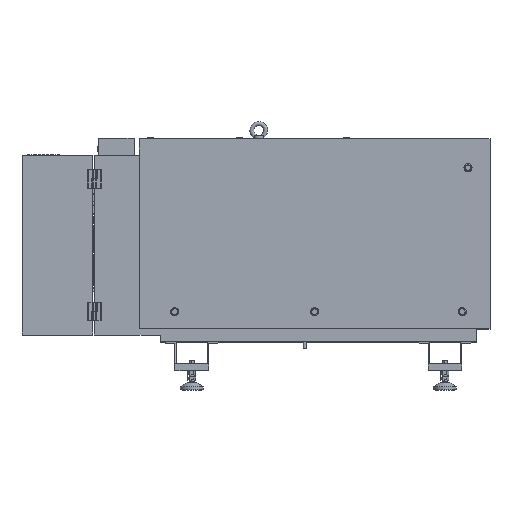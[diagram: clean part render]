
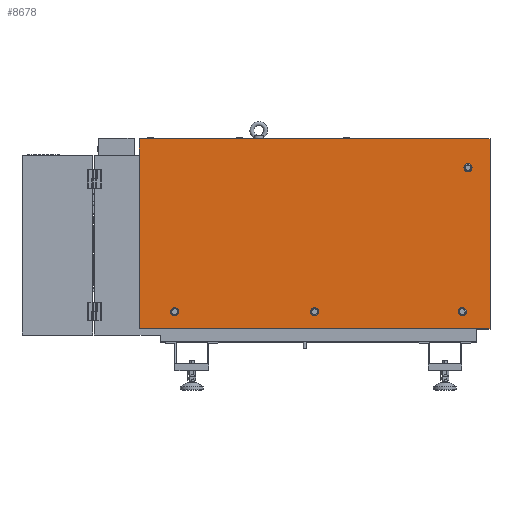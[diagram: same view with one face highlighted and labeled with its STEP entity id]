
A CAD part, top view. The second image highlights one B-rep face of the part: STEP entity #8678.
In plain terms, the highlighted planar face has unit normal (0, 0, 1).
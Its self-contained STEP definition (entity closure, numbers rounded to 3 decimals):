
#7074=DIRECTION('',(1.,0.,0.));
#7075=VECTOR('',#7074,1220.);
#7076=CARTESIAN_POINT('',(-73.5,705.5,277.5));
#7077=LINE('',#7076,#7075);
#7130=DIRECTION('',(0.,-1.,0.));
#7131=VECTOR('',#7130,660.5);
#7132=CARTESIAN_POINT('',(-73.5,705.5,277.5));
#7133=LINE('',#7132,#7131);
#7134=CARTESIAN_POINT('',(50.,105.,277.5));
#7135=DIRECTION('',(0.,0.,1.));
#7136=DIRECTION('',(-1.,0.,0.));
#7137=AXIS2_PLACEMENT_3D('',#7134,#7135,#7136);
#7139=CARTESIAN_POINT('',(50.,105.,277.5));
#7140=DIRECTION('',(0.,0.,1.));
#7141=DIRECTION('',(1.,0.,0.));
#7142=AXIS2_PLACEMENT_3D('',#7139,#7140,#7141);
#7144=CARTESIAN_POINT('',(536.5,105.,277.5));
#7145=DIRECTION('',(0.,0.,1.));
#7146=DIRECTION('',(-1.,0.,0.));
#7147=AXIS2_PLACEMENT_3D('',#7144,#7145,#7146);
#7149=CARTESIAN_POINT('',(536.5,105.,277.5));
#7150=DIRECTION('',(0.,0.,1.));
#7151=DIRECTION('',(1.,0.,0.));
#7152=AXIS2_PLACEMENT_3D('',#7149,#7150,#7151);
#7154=CARTESIAN_POINT('',(1050.,105.,277.5));
#7155=DIRECTION('',(0.,0.,1.));
#7156=DIRECTION('',(-1.,0.,0.));
#7157=AXIS2_PLACEMENT_3D('',#7154,#7155,#7156);
#7159=CARTESIAN_POINT('',(1050.,105.,277.5));
#7160=DIRECTION('',(0.,0.,1.));
#7161=DIRECTION('',(1.,0.,0.));
#7162=AXIS2_PLACEMENT_3D('',#7159,#7160,#7161);
#7164=CARTESIAN_POINT('',(1070.,605.5,277.5));
#7165=DIRECTION('',(0.,0.,1.));
#7166=DIRECTION('',(-1.,0.,0.));
#7167=AXIS2_PLACEMENT_3D('',#7164,#7165,#7166);
#7169=CARTESIAN_POINT('',(1070.,605.5,277.5));
#7170=DIRECTION('',(0.,0.,1.));
#7171=DIRECTION('',(1.,0.,0.));
#7172=AXIS2_PLACEMENT_3D('',#7169,#7170,#7171);
#7174=DIRECTION('',(0.,-1.,0.));
#7175=VECTOR('',#7174,660.5);
#7176=CARTESIAN_POINT('',(1146.5,705.5,277.5));
#7177=LINE('',#7176,#7175);
#7569=DIRECTION('',(1.,0.,0.));
#7570=VECTOR('',#7569,1220.);
#7571=CARTESIAN_POINT('',(-73.5,45.,277.5));
#7572=LINE('',#7571,#7570);
#8232=CARTESIAN_POINT('',(-73.5,705.5,277.5));
#8233=CARTESIAN_POINT('',(1146.5,705.5,277.5));
#8234=VERTEX_POINT('',#8232);
#8235=VERTEX_POINT('',#8233);
#8240=CARTESIAN_POINT('',(-73.5,45.,277.5));
#8241=CARTESIAN_POINT('',(1146.5,45.,277.5));
#8242=VERTEX_POINT('',#8240);
#8243=VERTEX_POINT('',#8241);
#8516=CARTESIAN_POINT('',(36.,105.,277.5));
#8517=CARTESIAN_POINT('',(64.,105.,277.5));
#8518=VERTEX_POINT('',#8516);
#8519=VERTEX_POINT('',#8517);
#8524=CARTESIAN_POINT('',(522.5,105.,277.5));
#8525=CARTESIAN_POINT('',(550.5,105.,277.5));
#8526=VERTEX_POINT('',#8524);
#8527=VERTEX_POINT('',#8525);
#8532=CARTESIAN_POINT('',(1036.,105.,277.5));
#8533=CARTESIAN_POINT('',(1064.,105.,277.5));
#8534=VERTEX_POINT('',#8532);
#8535=VERTEX_POINT('',#8533);
#8540=CARTESIAN_POINT('',(1056.,605.5,277.5));
#8541=CARTESIAN_POINT('',(1084.,605.5,277.5));
#8542=VERTEX_POINT('',#8540);
#8543=VERTEX_POINT('',#8541);
#8640=CARTESIAN_POINT('',(-73.5,705.5,277.5));
#8641=DIRECTION('',(0.,0.,1.));
#8642=DIRECTION('',(1.,0.,0.));
#8643=AXIS2_PLACEMENT_3D('',#8640,#8641,#8642);
#8644=PLANE('',#8643);
#8645=ORIENTED_EDGE('',*,*,#8605,.T.);
#8647=ORIENTED_EDGE('',*,*,#8646,.T.);
#8649=ORIENTED_EDGE('',*,*,#8648,.F.);
#8651=ORIENTED_EDGE('',*,*,#8650,.F.);
#8652=EDGE_LOOP('',(#8645,#8647,#8649,#8651));
#8653=FACE_OUTER_BOUND('',#8652,.F.);
#8655=ORIENTED_EDGE('',*,*,#8654,.T.);
#8657=ORIENTED_EDGE('',*,*,#8656,.T.);
#8658=EDGE_LOOP('',(#8655,#8657));
#8659=FACE_BOUND('',#8658,.F.);
#8661=ORIENTED_EDGE('',*,*,#8660,.T.);
#8663=ORIENTED_EDGE('',*,*,#8662,.T.);
#8664=EDGE_LOOP('',(#8661,#8663));
#8665=FACE_BOUND('',#8664,.F.);
#8667=ORIENTED_EDGE('',*,*,#8666,.T.);
#8669=ORIENTED_EDGE('',*,*,#8668,.T.);
#8670=EDGE_LOOP('',(#8667,#8669));
#8671=FACE_BOUND('',#8670,.F.);
#8673=ORIENTED_EDGE('',*,*,#8672,.T.);
#8675=ORIENTED_EDGE('',*,*,#8674,.T.);
#8676=EDGE_LOOP('',(#8673,#8675));
#8677=FACE_BOUND('',#8676,.F.);
#7138=CIRCLE('',#7137,14.);
#7143=CIRCLE('',#7142,14.);
#7148=CIRCLE('',#7147,14.);
#7153=CIRCLE('',#7152,14.);
#7158=CIRCLE('',#7157,14.);
#7163=CIRCLE('',#7162,14.);
#7168=CIRCLE('',#7167,14.);
#7173=CIRCLE('',#7172,14.);
#8605=EDGE_CURVE('',#8234,#8235,#7077,.T.);
#8646=EDGE_CURVE('',#8235,#8243,#7177,.T.);
#8648=EDGE_CURVE('',#8242,#8243,#7572,.T.);
#8650=EDGE_CURVE('',#8234,#8242,#7133,.T.);
#8654=EDGE_CURVE('',#8518,#8519,#7138,.T.);
#8656=EDGE_CURVE('',#8519,#8518,#7143,.T.);
#8660=EDGE_CURVE('',#8526,#8527,#7148,.T.);
#8662=EDGE_CURVE('',#8527,#8526,#7153,.T.);
#8666=EDGE_CURVE('',#8534,#8535,#7158,.T.);
#8668=EDGE_CURVE('',#8535,#8534,#7163,.T.);
#8672=EDGE_CURVE('',#8542,#8543,#7168,.T.);
#8674=EDGE_CURVE('',#8543,#8542,#7173,.T.);
#8678=ADVANCED_FACE('',(#8653,#8659,#8665,#8671,#8677),#8644,.T.);
